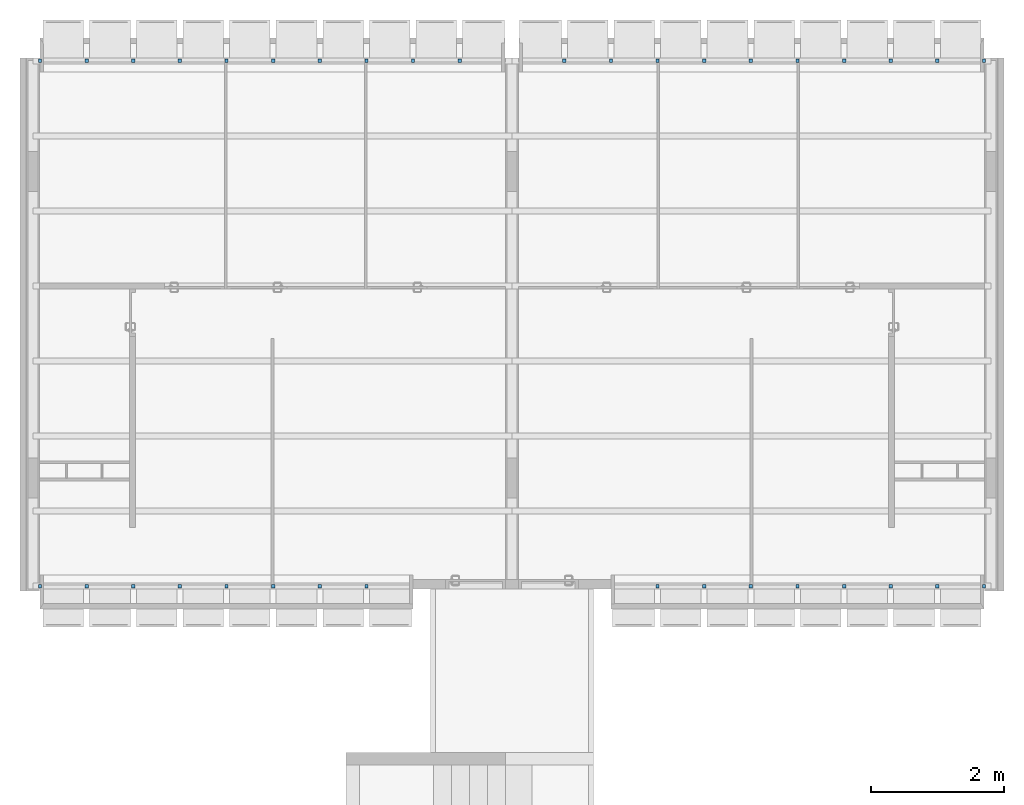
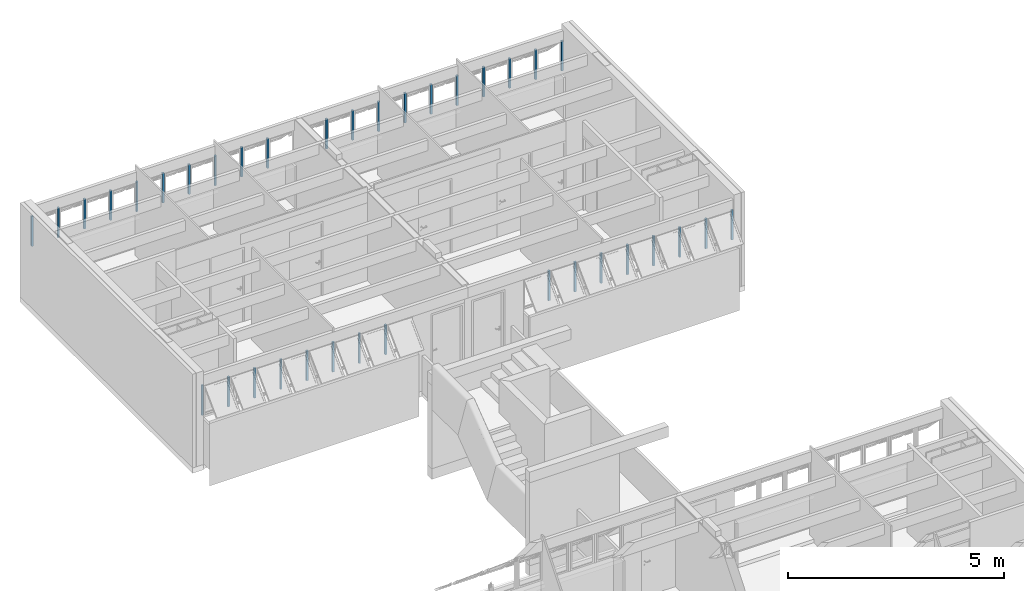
# One storey, part 3 of 40: 36 members, 4 elements without a shape of their own.
"""IFC4 building model written with IfcOpenShell, lengths in millimetres."""

import ifcopenshell
import ifcopenshell.guid

model = None  # the IFC model being written
_history = None  # IfcOwnerHistory: only IFC2X3 demands one
_inside = {}  # id of a spatial element -> (the spatial element, [elements in it])
_under = {}  # id of a project, library or spatial element -> (it, [spatial elements below it])
_declared = {}  # id of a project -> (the project, [libraries it declares])
_typed = {}  # id of a type object -> (the type object, [elements of that type])
_made_of = {}  # id of a material, layer set ... -> (it, [elements and type objects made of it])


def new_model(schema):
    """Start an empty IFC model of exactly this schema.

    Asked for "IFC4X3", IfcOpenShell would pick the latest addendum, in which some entities
    have other attributes; the version numbers below select the first issue.
    IFC2X3 requires an IfcOwnerHistory on every rooted entity: one is made here for all.
    """
    global model, _history
    if schema == "IFC4X3":
        model = ifcopenshell.file(schema_version=(4, 3, 0, 0))
    else:
        model = ifcopenshell.file(schema=schema)
    _inside.clear()
    _under.clear()
    _declared.clear()
    _typed.clear()
    _made_of.clear()
    _history = None
    if model.schema == "IFC2X3":
        org = make("IfcOrganization", Name="unknown")
        user = make(
            "IfcPersonAndOrganization",
            ThePerson=make("IfcPerson", FamilyName="unknown"),
            TheOrganization=org,
        )
        app = make(
            "IfcApplication",
            ApplicationDeveloper=org,
            Version="unknown",
            ApplicationFullName="unknown",
            ApplicationIdentifier="unknown",
        )
        _history = make(
            "IfcOwnerHistory",
            OwningUser=user,
            OwningApplication=app,
            ChangeAction="ADDED",
            CreationDate=0,
        )
    return model


def make(cls, **values):
    """One entity of the class cls with the attributes given. An attribute that is None is left unset."""
    return model.create_entity(
        cls, **{name: value for name, value in values.items() if value is not None}
    )


def entity(cls, *values):
    """Any entity or typed value of the class cls, its attributes in the order of the schema. None: left unset."""
    e = model.create_entity(cls)
    for i, value in enumerate(values):
        if value is not None:
            e[i] = value
    return e


def rooted(cls, **values):
    """An entity with a GlobalId (a new one), such as an element, a storey or a relation."""
    return make(cls, GlobalId=ifcopenshell.guid.new(), OwnerHistory=_history, **values)


def si_unit(unit_type, name, prefix=None):
    """IfcSIUnit, for example si_unit("LENGTHUNIT", "METRE", prefix="MILLI")."""
    return make("IfcSIUnit", UnitType=unit_type, Prefix=prefix, Name=name)


def converted_unit(unit_type, name, factor, base, dimensions=None, offset=None):
    """IfcConversionBasedUnit, such as the inch: factor (a typed value) times the base unit."""
    return make(
        "IfcConversionBasedUnit"
        if offset is None
        else "IfcConversionBasedUnitWithOffset",
        ConversionOffset=offset,
        Dimensions=None
        if dimensions is None
        else entity("IfcDimensionalExponents", *dimensions),
        UnitType=unit_type,
        Name=name,
        ConversionFactor=make(
            "IfcMeasureWithUnit", ValueComponent=factor, UnitComponent=base
        ),
    )


def derived_unit(unit_type, elements):
    """IfcDerivedUnit: a product of units, each with its exponent."""
    return make(
        "IfcDerivedUnit",
        Elements=[
            make("IfcDerivedUnitElement", Unit=unit, Exponent=power)
            for unit, power in elements
        ],
        UnitType=unit_type,
    )


def assignment(units):
    """IfcUnitAssignment: the units of a project."""
    return None if units is None else make("IfcUnitAssignment", Units=units)


def point(xyz):
    """IfcCartesianPoint."""
    return None if xyz is None else make("IfcCartesianPoint", Coordinates=xyz)


def direction(xyz):
    """IfcDirection."""
    return None if xyz is None else make("IfcDirection", DirectionRatios=xyz)


def frame(location, z_axis=None, x_axis=None):
    """IfcAxis2Placement3D, a coordinate frame: its origin and axes. An axis left out is left unset."""
    return make(
        "IfcAxis2Placement3D",
        Location=point(location),
        Axis=direction(z_axis),
        RefDirection=direction(x_axis),
    )


def origin_with_axes():
    """The frame at (0, 0, 0) with the z axis (0, 0, 1) and the x axis (1, 0, 0) written out."""
    return frame((0.0, 0.0, 0.0), z_axis=(0.0, 0.0, 1.0), x_axis=(1.0, 0.0, 0.0))


def place(relative_to, where):
    """IfcLocalPlacement: puts the frame where relative to a parent placement (None: the world)."""
    return make(
        "IfcLocalPlacement", PlacementRelTo=relative_to, RelativePlacement=where
    )


def context(
    kind, dimensions, precision=None, world=None, true_north=None, identifier=None
):
    """IfcGeometricRepresentationContext, for example the 3D "Model" context."""
    return make(
        "IfcGeometricRepresentationContext",
        ContextIdentifier=identifier,
        ContextType=kind,
        CoordinateSpaceDimension=dimensions,
        Precision=precision,
        WorldCoordinateSystem=world,
        TrueNorth=true_north,
    )


def subcontext(parent, identifier, kind, view, scale=None):
    """IfcGeometricRepresentationSubContext, for example "Body" below "Model"."""
    return make(
        "IfcGeometricRepresentationSubContext",
        ContextIdentifier=identifier,
        ContextType=kind,
        ParentContext=parent,
        TargetScale=scale,
        TargetView=view,
    )


def project(units=None, contexts=None):
    """IfcProject with its units and contexts."""
    return rooted(
        "IfcProject",
        Name="project",
        RepresentationContexts=contexts,
        UnitsInContext=assignment(units),
    )


def spatial(cls, under=None, at=None, **own):
    """A site, building, storey or space (cls), placed at a placement, below another one or the project."""
    s = rooted(cls, ObjectPlacement=at, **own)
    if under is not None:
        _under.setdefault(under.id(), (under, []))[1].append(s)
    return s


def point_list(points):
    """IfcCartesianPointList2D or 3D."""
    cls = (
        "IfcCartesianPointList2D" if len(points[0]) == 2 else "IfcCartesianPointList3D"
    )
    return make(cls, CoordList=points)


def line(*indices):
    """IfcLineIndex: a straight run through numbered points of an indexed curve."""
    return model.create_entity("IfcLineIndex", indices)


def indexed_curve(points, segments=None, self_intersect=None):
    """IfcIndexedPolyCurve: lines and arcs through numbered points (the first is 1)."""
    return make(
        "IfcIndexedPolyCurve",
        Points=point_list(points),
        Segments=segments,
        SelfIntersect=self_intersect,
    )


def outline(outer, holes=None, kind="AREA"):
    """IfcArbitraryClosedProfileDef: a profile drawn as a closed curve; with holes, ...WithVoids."""
    if holes is None:
        return make("IfcArbitraryClosedProfileDef", ProfileType=kind, OuterCurve=outer)
    return make(
        "IfcArbitraryProfileDefWithVoids",
        ProfileType=kind,
        OuterCurve=outer,
        InnerCurves=holes,
    )


def extrude(swept, where, along, depth):
    """IfcExtrudedAreaSolid: the profile swept, set in the frame where, extruded along a direction by depth."""
    return make(
        "IfcExtrudedAreaSolid",
        SweptArea=swept,
        Position=where,
        ExtrudedDirection=direction(along),
        Depth=depth,
    )


def shape(context_of_items, identifier, shape_type, items):
    """IfcShapeRepresentation: the items that make up one representation, for example the "Body"."""
    return make(
        "IfcShapeRepresentation",
        ContextOfItems=context_of_items,
        RepresentationIdentifier=identifier,
        RepresentationType=shape_type,
        Items=items,
    )


def material(Name=None, Category=None):
    """IfcMaterial."""
    return make("IfcMaterial", Name=Name, Category=Category)


def made_of(thing, what):
    """Note that an element or type object is made of a material, layer set ...; save() writes the relation."""
    if what is not None:
        _made_of.setdefault(what.id(), (what, []))[1].append(thing)
    return thing


def type_object(cls, material=None, **own):
    """A type object (cls), such as IfcWallType, which elements share."""
    return made_of(rooted(cls, **own), material)


def element(
    cls,
    number,
    at=None,
    inside=None,
    cuts=None,
    type_object=None,
    material=None,
    context=None,
    identifier="Body",
    shape_type=None,
    held_by="IfcProductDefinitionShape",
    body=None,
    shapes=None,
    **own,
):
    """One element of the class cls, such as IfcWall. Its Tag is "e" and its number.

    at: its placement. inside: the storey or other place that contains it. cuts: it is an
    opening in that element (IfcRelVoidsElement). A single representation is given by context,
    identifier, shape_type and body (its items); several are given by shapes. held_by: the class
    of the entity that holds the representations. save() writes the other relations.
    """
    e = rooted(cls, Tag="e%d" % number, ObjectPlacement=at, **own)
    if body is not None:
        shapes = [shape(context, identifier, shape_type, body)]
    if shapes is not None:
        e.Representation = make(held_by, Representations=shapes)
    if inside is not None:
        _inside.setdefault(inside.id(), (inside, []))[1].append(e)
    if cuts is not None:
        rooted(
            "IfcRelVoidsElement", RelatingBuildingElement=cuts, RelatedOpeningElement=e
        )
    if type_object is not None:
        _typed.setdefault(type_object.id(), (type_object, []))[1].append(e)
    return made_of(e, material)


def aggregate(whole, parts):
    """IfcRelAggregates: a whole, such as a stair, and the parts it consists of."""
    return rooted("IfcRelAggregates", RelatingObject=whole, RelatedObjects=parts)


def save(model, path):
    """Write the relations noted so far, then the file.

    IfcRelAggregates (storeys below a building ...), IfcRelContainedInSpatialStructure (elements
    in a storey), IfcRelDefinesByType, IfcRelAssociatesMaterial and IfcRelDeclares: one each for
    every whole, place, type object, material and project.
    """
    for whole, parts in _under.values():
        aggregate(whole, parts)
    for where, things in _inside.values():
        rooted(
            "IfcRelContainedInSpatialStructure",
            RelatedElements=things,
            RelatingStructure=where,
        )
    for kind, things in _typed.values():
        rooted("IfcRelDefinesByType", RelatedObjects=things, RelatingType=kind)
    for what, things in _made_of.values():
        rooted("IfcRelAssociatesMaterial", RelatedObjects=things, RelatingMaterial=what)
    for by, libraries in _declared.values():
        rooted("IfcRelDeclares", RelatingContext=by, RelatedDefinitions=libraries)
    model.write(path)


model = new_model("IFC4")

# Units and contexts
model_context = context("Model", 3, precision=0.01, world=origin_with_axes(), true_north=direction((0.0, 1.0)))
body_context = subcontext(model_context, "Body", "Model", "MODEL_VIEW")
ifc_project = project(units=[si_unit("LENGTHUNIT", "METRE", prefix="MILLI"), si_unit("AREAUNIT", "SQUARE_METRE"), si_unit("VOLUMEUNIT", "CUBIC_METRE"), converted_unit("PLANEANGLEUNIT", "DEGREE", entity("IfcPlaneAngleMeasure", 0.0174532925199), si_unit("PLANEANGLEUNIT", "RADIAN"), dimensions=[0, 0, 0, 0, 0, 0, 0]), converted_unit("TIMEUNIT", "Year", entity("IfcTimeMeasure", 31556926.0), si_unit("TIMEUNIT", "SECOND"), dimensions=[0, 0, 1, 0, 0, 0, 0]), si_unit("MASSUNIT", "GRAM", prefix="KILO"), si_unit("THERMODYNAMICTEMPERATUREUNIT", "DEGREE_CELSIUS"), si_unit("LUMINOUSINTENSITYUNIT", "LUMEN"), si_unit("ENERGYUNIT", "JOULE", prefix="MEGA"), derived_unit("THERMALCONDUCTANCEUNIT", [(si_unit("POWERUNIT", "WATT"), 1), (si_unit("LENGTHUNIT", "METRE"), -1), (si_unit("THERMODYNAMICTEMPERATUREUNIT", "KELVIN"), -1)]), derived_unit("SPECIFICHEATCAPACITYUNIT", [(si_unit("ENERGYUNIT", "JOULE"), 1), (si_unit("MASSUNIT", "GRAM", prefix="KILO"), -1), (si_unit("THERMODYNAMICTEMPERATUREUNIT", "KELVIN"), -1)]), derived_unit("MASSDENSITYUNIT", [(si_unit("MASSUNIT", "GRAM", prefix="KILO"), 1), (si_unit("VOLUMEUNIT", "CUBIC_METRE"), -1)])], contexts=[model_context])

# Site, building, storey
site_placement = place(None, origin_with_axes())
site = spatial("IfcSite", under=ifc_project, at=site_placement, Name="Local", CompositionType="ELEMENT")
building_placement = place(site_placement, origin_with_axes())
building = spatial("IfcBuilding", under=site, at=building_placement, Name="Construção", CompositionType="ELEMENT")
storey_placement = place(building_placement, origin_with_axes())
storey = spatial("IfcBuildingStorey", under=building, at=storey_placement, Name="Primeiro Pavimento", CompositionType="ELEMENT", Elevation=0.0)

# Window, members
window_type = type_object("IfcWindowType", Name="Tipo de Parede Cortina", PartitioningType="NOTDEFINED", PredefinedType="NOTDEFINED")
window_1_placement = place(storey_placement, frame((8520.0, 25844.9790225, 1355.02054151), z_axis=(0.0, 0.0, 1.0), x_axis=(1.0, 0.0, 0.0)))
window_1 = element("IfcWindow", 1, at=window_1_placement, inside=storey, type_object=window_type, Name="APTO4-JANELA-001", PredefinedType="NOTDEFINED")
ifc_material = material(Name="Alumínio")
member_type = type_object("IfcMemberType", Name="Montante 50 x 50", PredefinedType="MULLION")
member_1_placement = place(window_1_placement, frame((2450.0, 0.0, 0.0), z_axis=(0.0, 0.0, 1.0), x_axis=(1.0, 0.0, 0.0)))
member_1 = element("IfcMember", 2, at=member_1_placement, type_object=member_type, material=ifc_material, Name="APTO4-PC-Est-Mnt-430", PredefinedType="MULLION", context=body_context, shape_type="SweptSolid", body=[
    extrude(outline(indexed_curve([(25.0, -50.0), (25.0, 0.0), (-25.0, 0.0), (-25.0, -50.0)], segments=[line(1, 2, 3, 4, 1)])), origin_with_axes(), (0.0, 0.0, 1.0), 844.999891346),
])
member_2_placement = place(window_1_placement, frame((1750.0, 0.0, 0.0), z_axis=(0.0, 0.0, 1.0), x_axis=(1.0, 0.0, 0.0)))
member_2 = element("IfcMember", 3, at=member_2_placement, type_object=member_type, material=ifc_material, Name="APTO4-PC-Est-Mnt-485", PredefinedType="MULLION", context=body_context, shape_type="SweptSolid", body=[
    extrude(outline(indexed_curve([(25.0, -50.0), (25.0, 0.0), (-25.0, 0.0), (-25.0, -50.0)], segments=[line(1, 2, 3, 4, 1)])), origin_with_axes(), (0.0, 0.0, 1.0), 844.999891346),
])
member_3_placement = place(window_1_placement, frame((1050.0, 0.0, 0.0), z_axis=(0.0, 0.0, 1.0), x_axis=(1.0, 0.0, 0.0)))
member_3 = element("IfcMember", 4, at=member_3_placement, type_object=member_type, material=ifc_material, Name="APTO4-PC-Est-Mnt-486", PredefinedType="MULLION", context=body_context, shape_type="SweptSolid", body=[
    extrude(outline(indexed_curve([(25.0, -50.0), (25.0, 0.0), (-25.0, 0.0), (-25.0, -50.0)], segments=[line(1, 2, 3, 4, 1)])), origin_with_axes(), (0.0, 0.0, 1.0), 844.999891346),
])
member_4_placement = place(window_1_placement, frame((3850.0, 0.0, 0.0), z_axis=(0.0, 0.0, 1.0), x_axis=(1.0, 0.0, 0.0)))
member_4 = element("IfcMember", 5, at=member_4_placement, type_object=member_type, material=ifc_material, Name="APTO4-PC-Est-Mnt-428", PredefinedType="MULLION", context=body_context, shape_type="SweptSolid", body=[
    extrude(outline(indexed_curve([(25.0, -50.0), (25.0, 0.0), (-25.0, 0.0), (-25.0, -50.0)], segments=[line(1, 2, 3, 4, 1)])), origin_with_axes(), (0.0, 0.0, 1.0), 844.999891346),
])
member_5_placement = place(window_1_placement, frame((350.0, 0.0, 0.0), z_axis=(0.0, 0.0, 1.0), x_axis=(1.0, 0.0, 0.0)))
member_5 = element("IfcMember", 6, at=member_5_placement, type_object=member_type, material=ifc_material, Name="APTO4-PC-Est-Mnt-487", PredefinedType="MULLION", context=body_context, shape_type="SweptSolid", body=[
    extrude(outline(indexed_curve([(25.0, -50.0), (25.0, 0.0), (-25.0, 0.0), (-25.0, -50.0)], segments=[line(1, 2, 3, 4, 1)])), origin_with_axes(), (0.0, 0.0, 1.0), 844.999891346),
])
member_6_placement = place(window_1_placement, frame((-350.0, 0.0, 0.0), z_axis=(0.0, 0.0, 1.0), x_axis=(1.0, 0.0, 0.0)))
member_6 = element("IfcMember", 7, at=member_6_placement, type_object=member_type, material=ifc_material, Name="APTO4-PC-Est-Mnt-488", PredefinedType="MULLION", context=body_context, shape_type="SweptSolid", body=[
    extrude(outline(indexed_curve([(25.0, -50.0), (25.0, 0.0), (-25.0, 0.0), (-25.0, -50.0)], segments=[line(1, 2, 3, 4, 1)])), origin_with_axes(), (0.0, 0.0, 1.0), 844.999891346),
])
member_7_placement = place(window_1_placement, frame((5950.0, 0.0, 0.0), z_axis=(0.0, 0.0, 1.0), x_axis=(1.0, 0.0, 0.0)))
member_7 = element("IfcMember", 8, at=member_7_placement, type_object=member_type, material=ifc_material, Name="APTO4-PC-Est-Mnt-522", PredefinedType="MULLION", context=body_context, shape_type="SweptSolid", body=[
    extrude(outline(indexed_curve([(25.0, -50.0), (25.0, 0.0), (-25.0, 0.0), (-25.0, -50.0)], segments=[line(1, 2, 3, 4, 1)])), origin_with_axes(), (0.0, 0.0, 1.0), 844.999891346),
])
member_8_placement = place(window_1_placement, frame((3150.0, 0.0, 0.0), z_axis=(0.0, 0.0, 1.0), x_axis=(1.0, 0.0, 0.0)))
member_8 = element("IfcMember", 9, at=member_8_placement, type_object=member_type, material=ifc_material, Name="APTO4-PC-Est-Mnt-429", PredefinedType="MULLION", context=body_context, shape_type="SweptSolid", body=[
    extrude(outline(indexed_curve([(25.0, -50.0), (25.0, 0.0), (-25.0, 0.0), (-25.0, -50.0)], segments=[line(1, 2, 3, 4, 1)])), origin_with_axes(), (0.0, 0.0, 1.0), 844.999891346),
])
member_9_placement = place(window_1_placement, frame((4550.0, 0.0, 0.0), z_axis=(0.0, 0.0, 1.0), x_axis=(1.0, 0.0, 0.0)))
member_9 = element("IfcMember", 10, at=member_9_placement, type_object=member_type, material=ifc_material, Name="APTO4-PC-Est-Mnt-427", PredefinedType="MULLION", context=body_context, shape_type="SweptSolid", body=[
    extrude(outline(indexed_curve([(25.0, -50.0), (25.0, 0.0), (-25.0, 0.0), (-25.0, -50.0)], segments=[line(1, 2, 3, 4, 1)])), origin_with_axes(), (0.0, 0.0, 1.0), 844.999891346),
])
member_10_placement = place(window_1_placement, frame((5250.0, 0.0, 0.0), z_axis=(0.0, 0.0, 1.0), x_axis=(1.0, 0.0, 0.0)))
member_10 = element("IfcMember", 11, at=member_10_placement, type_object=member_type, material=ifc_material, Name="APTO4-PC-Est-Mnt-426", PredefinedType="MULLION", context=body_context, shape_type="SweptSolid", body=[
    extrude(outline(indexed_curve([(25.0, -50.0), (25.0, 0.0), (-25.0, 0.0), (-25.0, -50.0)], segments=[line(1, 2, 3, 4, 1)])), origin_with_axes(), (0.0, 0.0, 1.0), 844.999891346),
])
aggregate(window_1, [member_1, member_2, member_3, member_4, member_5, member_6, member_7, member_8, member_9, member_10])

window_2_placement = place(storey_placement, frame((12020.0, 17910.0, 1355.00007107), z_axis=(0.0, 0.0, 1.0), x_axis=(1.0, 0.0, 0.0)))
window_2 = element("IfcWindow", 12, at=window_2_placement, inside=storey, type_object=window_type, Name="APTO4-JANELA-000", PredefinedType="NOTDEFINED")
member_11_placement = place(window_2_placement, frame((-1050.0, 0.0, 0.0), z_axis=(0.0, 0.0, 1.0), x_axis=(1.0, 0.0, 0.0)))
member_11 = element("IfcMember", 13, at=member_11_placement, type_object=member_type, material=ifc_material, Name="APTO4-PC-Est-Mnt-430", PredefinedType="MULLION", context=body_context, shape_type="SweptSolid", body=[
    extrude(outline(indexed_curve([(25.0, 50.0), (-25.0, 50.0), (-25.0, 0.0), (25.0, 0.0)], segments=[line(1, 2, 3, 4, 1)])), origin_with_axes(), (0.0, 0.0, 1.0), 844.999928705),
])
member_12_placement = place(window_2_placement, frame((-1750.0, 0.0, 0.0), z_axis=(0.0, 0.0, 1.0), x_axis=(1.0, 0.0, 0.0)))
member_12 = element("IfcMember", 14, at=member_12_placement, type_object=member_type, material=ifc_material, Name="APTO4-PC-Est-Mnt-485", PredefinedType="MULLION", context=body_context, shape_type="SweptSolid", body=[
    extrude(outline(indexed_curve([(25.0, 50.0), (-25.0, 50.0), (-25.0, 0.0), (25.0, 0.0)], segments=[line(1, 2, 3, 4, 1)])), origin_with_axes(), (0.0, 0.0, 1.0), 844.999928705),
])
member_13_placement = place(window_2_placement, frame((-2450.0, 0.0, 0.0), z_axis=(0.0, 0.0, 1.0), x_axis=(1.0, 0.0, 0.0)))
member_13 = element("IfcMember", 15, at=member_13_placement, type_object=member_type, material=ifc_material, Name="APTO4-PC-Est-Mnt-486", PredefinedType="MULLION", context=body_context, shape_type="SweptSolid", body=[
    extrude(outline(indexed_curve([(25.0, 50.0), (-25.0, 50.0), (-25.0, 0.0), (25.0, 0.0)], segments=[line(1, 2, 3, 4, 1)])), origin_with_axes(), (0.0, 0.0, 1.0), 844.999928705),
])
member_14_placement = place(window_2_placement, frame((350.0, 0.0, 0.0), z_axis=(0.0, 0.0, 1.0), x_axis=(1.0, 0.0, 0.0)))
member_14 = element("IfcMember", 16, at=member_14_placement, type_object=member_type, material=ifc_material, Name="APTO4-PC-Est-Mnt-428", PredefinedType="MULLION", context=body_context, shape_type="SweptSolid", body=[
    extrude(outline(indexed_curve([(25.0, 50.0), (-25.0, 50.0), (-25.0, 0.0), (25.0, 0.0)], segments=[line(1, 2, 3, 4, 1)])), origin_with_axes(), (0.0, 0.0, 1.0), 844.999928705),
])
member_15_placement = place(window_2_placement, frame((2450.0, 0.0, 0.0), z_axis=(0.0, 0.0, 1.0), x_axis=(1.0, 0.0, 0.0)))
member_15 = element("IfcMember", 17, at=member_15_placement, type_object=member_type, material=ifc_material, Name="APTO4-PC-Est-Mnt-560", PredefinedType="MULLION", context=body_context, shape_type="SweptSolid", body=[
    extrude(outline(indexed_curve([(25.0, 50.0), (-25.0, 50.0), (-25.0, 0.0), (25.0, 0.0)], segments=[line(1, 2, 3, 4, 1)])), origin_with_axes(), (0.0, 0.0, 1.0), 844.999928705),
])
member_16_placement = place(window_2_placement, frame((-350.0, 0.0, 0.0), z_axis=(0.0, 0.0, 1.0), x_axis=(1.0, 0.0, 0.0)))
member_16 = element("IfcMember", 18, at=member_16_placement, type_object=member_type, material=ifc_material, Name="APTO4-PC-Est-Mnt-429", PredefinedType="MULLION", context=body_context, shape_type="SweptSolid", body=[
    extrude(outline(indexed_curve([(25.0, 50.0), (-25.0, 50.0), (-25.0, 0.0), (25.0, 0.0)], segments=[line(1, 2, 3, 4, 1)])), origin_with_axes(), (0.0, 0.0, 1.0), 844.999928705),
])
member_17_placement = place(window_2_placement, frame((1050.0, 0.0, 0.0), z_axis=(0.0, 0.0, 1.0), x_axis=(1.0, 0.0, 0.0)))
member_17 = element("IfcMember", 19, at=member_17_placement, type_object=member_type, material=ifc_material, Name="APTO4-PC-Est-Mnt-427", PredefinedType="MULLION", context=body_context, shape_type="SweptSolid", body=[
    extrude(outline(indexed_curve([(25.0, 50.0), (-25.0, 50.0), (-25.0, 0.0), (25.0, 0.0)], segments=[line(1, 2, 3, 4, 1)])), origin_with_axes(), (0.0, 0.0, 1.0), 844.999928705),
])
member_18_placement = place(window_2_placement, frame((1750.0, 0.0, 0.0), z_axis=(0.0, 0.0, 1.0), x_axis=(1.0, 0.0, 0.0)))
member_18 = element("IfcMember", 20, at=member_18_placement, type_object=member_type, material=ifc_material, Name="APTO4-PC-Est-Mnt-426", PredefinedType="MULLION", context=body_context, shape_type="SweptSolid", body=[
    extrude(outline(indexed_curve([(25.0, 50.0), (-25.0, 50.0), (-25.0, 0.0), (25.0, 0.0)], segments=[line(1, 2, 3, 4, 1)])), origin_with_axes(), (0.0, 0.0, 1.0), 844.999928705),
])
aggregate(window_2, [member_11, member_12, member_13, member_14, member_15, member_16, member_17, member_18])

window_3_placement = place(storey_placement, frame((6250.0, 25844.9790225, 1355.02054151), z_axis=(0.0, 0.0, 1.0), x_axis=(1.0, 0.0, 0.0)))
window_3 = element("IfcWindow", 21, at=window_3_placement, inside=storey, type_object=window_type, Name="APTO3-JANELA-001", PredefinedType="NOTDEFINED")
member_19_placement = place(window_3_placement, frame((-2450.0, 0.0, 0.0), z_axis=(0.0, 0.0, 1.0), x_axis=(-1.0, 0.0, 0.0)))
member_19 = element("IfcMember", 22, at=member_19_placement, type_object=member_type, material=ifc_material, Name="APTO3-PC-Est-Mnt-430", PredefinedType="MULLION", context=body_context, shape_type="SweptSolid", body=[
    extrude(outline(indexed_curve([(-25.0, -50.0), (25.0, -50.0), (25.0, 0.0), (-25.0, 0.0)], segments=[line(1, 2, 3, 4, 1)])), frame((0.0, 0.0, 0.0), z_axis=(0.0, 0.0, 1.0), x_axis=(-1.0, 0.0, 0.0)), (0.0, 0.0, 1.0), 844.999928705),
])
member_20_placement = place(window_3_placement, frame((-1750.0, 0.0, 0.0), z_axis=(0.0, 0.0, 1.0), x_axis=(-1.0, 0.0, 0.0)))
member_20 = element("IfcMember", 23, at=member_20_placement, type_object=member_type, material=ifc_material, Name="APTO3-PC-Est-Mnt-485", PredefinedType="MULLION", context=body_context, shape_type="SweptSolid", body=[
    extrude(outline(indexed_curve([(-25.0, -50.0), (25.0, -50.0), (25.0, 0.0), (-25.0, 0.0)], segments=[line(1, 2, 3, 4, 1)])), frame((0.0, 0.0, 0.0), z_axis=(0.0, 0.0, 1.0), x_axis=(-1.0, 0.0, 0.0)), (0.0, 0.0, 1.0), 844.999928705),
])
member_21_placement = place(window_3_placement, frame((-1050.0, 0.0, 0.0), z_axis=(0.0, 0.0, 1.0), x_axis=(-1.0, 0.0, 0.0)))
member_21 = element("IfcMember", 24, at=member_21_placement, type_object=member_type, material=ifc_material, Name="APTO3-PC-Est-Mnt-486", PredefinedType="MULLION", context=body_context, shape_type="SweptSolid", body=[
    extrude(outline(indexed_curve([(-25.0, -50.0), (25.0, -50.0), (25.0, 0.0), (-25.0, 0.0)], segments=[line(1, 2, 3, 4, 1)])), frame((0.0, 0.0, 0.0), z_axis=(0.0, 0.0, 1.0), x_axis=(-1.0, 0.0, 0.0)), (0.0, 0.0, 1.0), 844.999928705),
])
member_22_placement = place(window_3_placement, frame((-3850.0, 0.0, 0.0), z_axis=(0.0, 0.0, 1.0), x_axis=(-1.0, 0.0, 0.0)))
member_22 = element("IfcMember", 25, at=member_22_placement, type_object=member_type, material=ifc_material, Name="APTO3-PC-Est-Mnt-428", PredefinedType="MULLION", context=body_context, shape_type="SweptSolid", body=[
    extrude(outline(indexed_curve([(-25.0, -50.0), (25.0, -50.0), (25.0, 0.0), (-25.0, 0.0)], segments=[line(1, 2, 3, 4, 1)])), frame((0.0, 0.0, 0.0), z_axis=(0.0, 0.0, 1.0), x_axis=(-1.0, 0.0, 0.0)), (0.0, 0.0, 1.0), 844.999928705),
])
member_23_placement = place(window_3_placement, frame((-350.0, 0.0, 0.0), z_axis=(0.0, 0.0, 1.0), x_axis=(-1.0, 0.0, 0.0)))
member_23 = element("IfcMember", 26, at=member_23_placement, type_object=member_type, material=ifc_material, Name="APTO3-PC-Est-Mnt-487", PredefinedType="MULLION", context=body_context, shape_type="SweptSolid", body=[
    extrude(outline(indexed_curve([(-25.0, -50.0), (25.0, -50.0), (25.0, 0.0), (-25.0, 0.0)], segments=[line(1, 2, 3, 4, 1)])), frame((0.0, 0.0, 0.0), z_axis=(0.0, 0.0, 1.0), x_axis=(-1.0, 0.0, 0.0)), (0.0, 0.0, 1.0), 844.999928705),
])
member_24_placement = place(window_3_placement, frame((350.0, 0.0, 0.0), z_axis=(0.0, 0.0, 1.0), x_axis=(-1.0, 0.0, 0.0)))
member_24 = element("IfcMember", 27, at=member_24_placement, type_object=member_type, material=ifc_material, Name="APTO3-PC-Est-Mnt-488", PredefinedType="MULLION", context=body_context, shape_type="SweptSolid", body=[
    extrude(outline(indexed_curve([(-25.0, -50.0), (25.0, -50.0), (25.0, 0.0), (-25.0, 0.0)], segments=[line(1, 2, 3, 4, 1)])), frame((0.0, 0.0, 0.0), z_axis=(0.0, 0.0, 1.0), x_axis=(-1.0, 0.0, 0.0)), (0.0, 0.0, 1.0), 844.999928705),
])
member_25_placement = place(window_3_placement, frame((-5950.0, 0.0, 0.0), z_axis=(0.0, 0.0, 1.0), x_axis=(-1.0, 0.0, 0.0)))
member_25 = element("IfcMember", 28, at=member_25_placement, type_object=member_type, material=ifc_material, Name="APTO3-PC-Est-Mnt-522", PredefinedType="MULLION", context=body_context, shape_type="SweptSolid", body=[
    extrude(outline(indexed_curve([(-25.0, -50.0), (25.0, -50.0), (25.0, 0.0), (-25.0, 0.0)], segments=[line(1, 2, 3, 4, 1)])), frame((0.0, 0.0, 0.0), z_axis=(0.0, 0.0, 1.0), x_axis=(-1.0, 0.0, 0.0)), (0.0, 0.0, 1.0), 844.999928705),
])
member_26_placement = place(window_3_placement, frame((-3150.0, 0.0, 0.0), z_axis=(0.0, 0.0, 1.0), x_axis=(-1.0, 0.0, 0.0)))
member_26 = element("IfcMember", 29, at=member_26_placement, type_object=member_type, material=ifc_material, Name="APTO3-PC-Est-Mnt-429", PredefinedType="MULLION", context=body_context, shape_type="SweptSolid", body=[
    extrude(outline(indexed_curve([(-25.0, -50.0), (25.0, -50.0), (25.0, 0.0), (-25.0, 0.0)], segments=[line(1, 2, 3, 4, 1)])), frame((0.0, 0.0, 0.0), z_axis=(0.0, 0.0, 1.0), x_axis=(-1.0, 0.0, 0.0)), (0.0, 0.0, 1.0), 844.999928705),
])
member_27_placement = place(window_3_placement, frame((-4550.0, 0.0, 0.0), z_axis=(0.0, 0.0, 1.0), x_axis=(-1.0, 0.0, 0.0)))
member_27 = element("IfcMember", 30, at=member_27_placement, type_object=member_type, material=ifc_material, Name="APTO3-PC-Est-Mnt-427", PredefinedType="MULLION", context=body_context, shape_type="SweptSolid", body=[
    extrude(outline(indexed_curve([(-25.0, -50.0), (25.0, -50.0), (25.0, 0.0), (-25.0, 0.0)], segments=[line(1, 2, 3, 4, 1)])), frame((0.0, 0.0, 0.0), z_axis=(0.0, 0.0, 1.0), x_axis=(-1.0, 0.0, 0.0)), (0.0, 0.0, 1.0), 844.999928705),
])
member_28_placement = place(window_3_placement, frame((-5250.0, 0.0, 0.0), z_axis=(0.0, 0.0, 1.0), x_axis=(-1.0, 0.0, 0.0)))
member_28 = element("IfcMember", 31, at=member_28_placement, type_object=member_type, material=ifc_material, Name="APTO3-PC-Est-Mnt-426", PredefinedType="MULLION", context=body_context, shape_type="SweptSolid", body=[
    extrude(outline(indexed_curve([(-25.0, -50.0), (25.0, -50.0), (25.0, 0.0), (-25.0, 0.0)], segments=[line(1, 2, 3, 4, 1)])), frame((0.0, 0.0, 0.0), z_axis=(0.0, 0.0, 1.0), x_axis=(-1.0, 0.0, 0.0)), (0.0, 0.0, 1.0), 844.999928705),
])
aggregate(window_3, [member_19, member_20, member_21, member_22, member_23, member_24, member_25, member_26, member_27, member_28])

window_4_placement = place(storey_placement, frame((2750.0, 17910.0, 1355.00007107), z_axis=(0.0, 0.0, 1.0), x_axis=(1.0, 0.0, 0.0)))
window_4 = element("IfcWindow", 32, at=window_4_placement, inside=storey, type_object=window_type, Name="APTO3-JANELA-000", PredefinedType="NOTDEFINED")
member_29_placement = place(window_4_placement, frame((1050.0, 0.0, 0.0), z_axis=(0.0, 0.0, 1.0), x_axis=(-1.0, 0.0, 0.0)))
member_29 = element("IfcMember", 33, at=member_29_placement, type_object=member_type, material=ifc_material, Name="APTO3-PC-Est-Mnt-430", PredefinedType="MULLION", context=body_context, shape_type="SweptSolid", body=[
    extrude(outline(indexed_curve([(-25.0, 50.0), (-25.0, 0.0), (25.0, 0.0), (25.0, 50.0)], segments=[line(1, 2, 3, 4, 1)])), frame((0.0, 0.0, 0.0), z_axis=(0.0, 0.0, 1.0), x_axis=(-1.0, 0.0, 0.0)), (0.0, 0.0, 1.0), 844.999891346),
])
member_30_placement = place(window_4_placement, frame((1750.0, 0.0, 0.0), z_axis=(0.0, 0.0, 1.0), x_axis=(-1.0, 0.0, 0.0)))
member_30 = element("IfcMember", 34, at=member_30_placement, type_object=member_type, material=ifc_material, Name="APTO3-PC-Est-Mnt-485", PredefinedType="MULLION", context=body_context, shape_type="SweptSolid", body=[
    extrude(outline(indexed_curve([(-25.0, 50.0), (-25.0, 0.0), (25.0, 0.0), (25.0, 50.0)], segments=[line(1, 2, 3, 4, 1)])), frame((0.0, 0.0, 0.0), z_axis=(0.0, 0.0, 1.0), x_axis=(-1.0, 0.0, 0.0)), (0.0, 0.0, 1.0), 844.999891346),
])
member_31_placement = place(window_4_placement, frame((2450.0, 0.0, 0.0), z_axis=(0.0, 0.0, 1.0), x_axis=(-1.0, 0.0, 0.0)))
member_31 = element("IfcMember", 35, at=member_31_placement, type_object=member_type, material=ifc_material, Name="APTO3-PC-Est-Mnt-486", PredefinedType="MULLION", context=body_context, shape_type="SweptSolid", body=[
    extrude(outline(indexed_curve([(-25.0, 50.0), (-25.0, 0.0), (25.0, 0.0), (25.0, 50.0)], segments=[line(1, 2, 3, 4, 1)])), frame((0.0, 0.0, 0.0), z_axis=(0.0, 0.0, 1.0), x_axis=(-1.0, 0.0, 0.0)), (0.0, 0.0, 1.0), 844.999891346),
])
member_32_placement = place(window_4_placement, frame((-350.0, 0.0, 0.0), z_axis=(0.0, 0.0, 1.0), x_axis=(-1.0, 0.0, 0.0)))
member_32 = element("IfcMember", 36, at=member_32_placement, type_object=member_type, material=ifc_material, Name="APTO3-PC-Est-Mnt-428", PredefinedType="MULLION", context=body_context, shape_type="SweptSolid", body=[
    extrude(outline(indexed_curve([(-25.0, 50.0), (-25.0, 0.0), (25.0, 0.0), (25.0, 50.0)], segments=[line(1, 2, 3, 4, 1)])), frame((0.0, 0.0, 0.0), z_axis=(0.0, 0.0, 1.0), x_axis=(-1.0, 0.0, 0.0)), (0.0, 0.0, 1.0), 844.999891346),
])
member_33_placement = place(window_4_placement, frame((-2450.0, 0.0, 0.0), z_axis=(0.0, 0.0, 1.0), x_axis=(-1.0, 0.0, 0.0)))
member_33 = element("IfcMember", 37, at=member_33_placement, type_object=member_type, material=ifc_material, Name="APTO3-PC-Est-Mnt-560", PredefinedType="MULLION", context=body_context, shape_type="SweptSolid", body=[
    extrude(outline(indexed_curve([(-25.0, 50.0), (-25.0, 0.0), (25.0, 0.0), (25.0, 50.0)], segments=[line(1, 2, 3, 4, 1)])), frame((0.0, 0.0, 0.0), z_axis=(0.0, 0.0, 1.0), x_axis=(-1.0, 0.0, 0.0)), (0.0, 0.0, 1.0), 844.999891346),
])
member_34_placement = place(window_4_placement, frame((350.0, 0.0, 0.0), z_axis=(0.0, 0.0, 1.0), x_axis=(-1.0, 0.0, 0.0)))
member_34 = element("IfcMember", 38, at=member_34_placement, type_object=member_type, material=ifc_material, Name="APTO3-PC-Est-Mnt-429", PredefinedType="MULLION", context=body_context, shape_type="SweptSolid", body=[
    extrude(outline(indexed_curve([(-25.0, 50.0), (-25.0, 0.0), (25.0, 0.0), (25.0, 50.0)], segments=[line(1, 2, 3, 4, 1)])), frame((0.0, 0.0, 0.0), z_axis=(0.0, 0.0, 1.0), x_axis=(-1.0, 0.0, 0.0)), (0.0, 0.0, 1.0), 844.999891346),
])
member_35_placement = place(window_4_placement, frame((-1050.0, 0.0, 0.0), z_axis=(0.0, 0.0, 1.0), x_axis=(-1.0, 0.0, 0.0)))
member_35 = element("IfcMember", 39, at=member_35_placement, type_object=member_type, material=ifc_material, Name="APTO3-PC-Est-Mnt-427", PredefinedType="MULLION", context=body_context, shape_type="SweptSolid", body=[
    extrude(outline(indexed_curve([(-25.0, 50.0), (-25.0, 0.0), (25.0, 0.0), (25.0, 50.0)], segments=[line(1, 2, 3, 4, 1)])), frame((0.0, 0.0, 0.0), z_axis=(0.0, 0.0, 1.0), x_axis=(-1.0, 0.0, 0.0)), (0.0, 0.0, 1.0), 844.999891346),
])
member_36_placement = place(window_4_placement, frame((-1750.0, 0.0, 0.0), z_axis=(0.0, 0.0, 1.0), x_axis=(-1.0, 0.0, 0.0)))
member_36 = element("IfcMember", 40, at=member_36_placement, type_object=member_type, material=ifc_material, Name="APTO3-PC-Est-Mnt-426", PredefinedType="MULLION", context=body_context, shape_type="SweptSolid", body=[
    extrude(outline(indexed_curve([(-25.0, 50.0), (-25.0, 0.0), (25.0, 0.0), (25.0, 50.0)], segments=[line(1, 2, 3, 4, 1)])), frame((0.0, 0.0, 0.0), z_axis=(0.0, 0.0, 1.0), x_axis=(-1.0, 0.0, 0.0)), (0.0, 0.0, 1.0), 844.999891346),
])
aggregate(window_4, [member_29, member_30, member_31, member_32, member_33, member_34, member_35, member_36])

save(model, "model.ifc")
